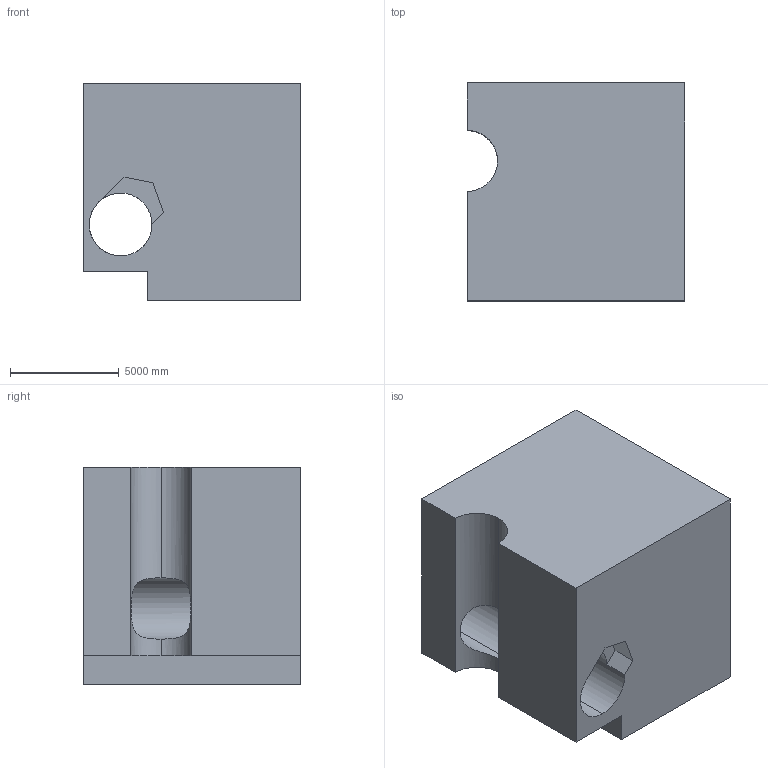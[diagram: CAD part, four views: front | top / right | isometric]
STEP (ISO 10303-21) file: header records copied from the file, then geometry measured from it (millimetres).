
FILE_DESCRIPTION (( 'STEP AP203' ), '1' );
FILE_NAME ('164.STEP', '2022-09-05T15:51:34', ( 'user' ), ( '' ), 'SwSTEP 2.0', 'SolidWorks 2021', '' );
FILE_SCHEMA (( 'CONFIG_CONTROL_DESIGN' ));
Length unit declared in the file: centimetre
Products named in the file (1): 164
Bounding box: 10000 x 10000 x 10000 mm (x, y, z)
Volume: 858860236456.9 mm3; surface area: 680305889 mm2
Topology: 1 solids, 1 shells, 29 faces, 81 edges, 54 vertices
Faces by surface type: plane 20, cylinder 9
Entity records: 1951 total; most frequent: CARTESIAN_POINT 1108, ORIENTED_EDGE 162, DIRECTION 151, EDGE_CURVE 81, VECTOR 59, LINE 59, VERTEX_POINT 54, AXIS2_PLACEMENT_3D 46
